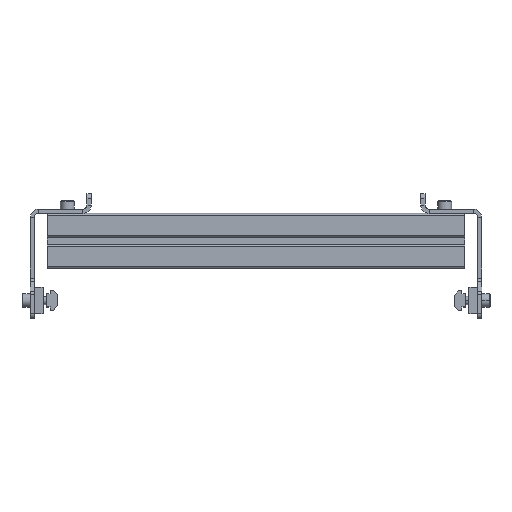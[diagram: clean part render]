
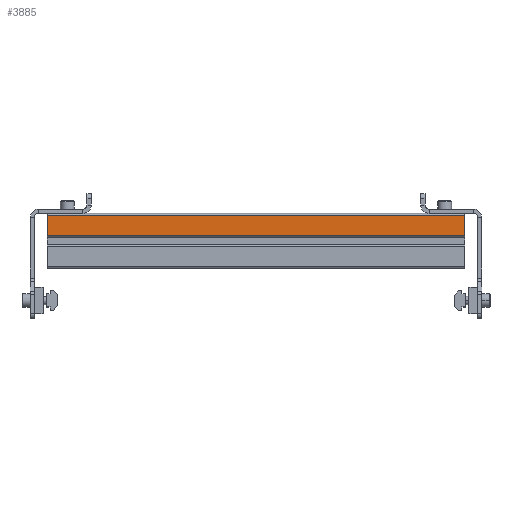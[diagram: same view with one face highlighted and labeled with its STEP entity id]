
A CAD part, top view. The second image highlights one B-rep face of the part: STEP entity #3885.
In plain terms, the highlighted planar face has unit normal (0, 0, 1) as drawn and (0, 1, 0) by its records, which use the part's own axes.
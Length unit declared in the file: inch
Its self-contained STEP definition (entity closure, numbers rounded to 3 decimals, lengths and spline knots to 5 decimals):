
#49 = ORIENTED_EDGE ( 'NONE', *, *, #855, .F. ) ;
#50 = CARTESIAN_POINT ( 'NONE',  ( -0.725, 0.441, 75. ) ) ;
#119 = EDGE_CURVE ( 'NONE', #6331, #7739, #5976, .T. ) ;
#364 = VECTOR ( 'NONE', #2160, 39.37008 ) ;
#490 = DIRECTION ( 'NONE',  ( 0., -1., 0. ) ) ;
#724 = CARTESIAN_POINT ( 'NONE',  ( -0.14758, 0.441, 5.98 ) ) ;
#855 = EDGE_CURVE ( 'NONE', #7739, #3124, #5385, .T. ) ;
#1076 = EDGE_CURVE ( 'NONE', #4794, #3124, #7832, .T. ) ;
#1087 = LINE ( 'NONE', #3711, #2051 ) ;
#1250 = DIRECTION ( 'NONE',  ( 0., 0., -1. ) ) ;
#1286 = FACE_OUTER_BOUND ( 'NONE', #3262, .T. ) ;
#1364 = ORIENTED_EDGE ( 'NONE', *, *, #1076, .T. ) ;
#2051 = VECTOR ( 'NONE', #2999, 39.37008 ) ;
#2160 = DIRECTION ( 'NONE',  ( -1., 0., 0. ) ) ;
#2999 = DIRECTION ( 'NONE',  ( 1., 0., 0. ) ) ;
#3124 = VERTEX_POINT ( 'NONE', #7377 ) ;
#3262 = EDGE_LOOP ( 'NONE', ( #6743, #4837, #1364, #49 ) ) ;
#3430 = DIRECTION ( 'NONE',  ( 0., 0., 1. ) ) ;
#3711 = CARTESIAN_POINT ( 'NONE',  ( 0.7875, 0.441, -5.98 ) ) ;
#3885 = ADVANCED_FACE ( 'NONE', ( #1286 ), #4835, .F. ) ;
#4422 = CARTESIAN_POINT ( 'NONE',  ( -0.7875, 0.441, 75. ) ) ;
#4427 = VECTOR ( 'NONE', #3430, 39.37008 ) ;
#4435 = CARTESIAN_POINT ( 'NONE',  ( -0.725, 0.441, -5.98 ) ) ;
#4794 = VERTEX_POINT ( 'NONE', #4435 ) ;
#4835 = PLANE ( 'NONE',  #7733 ) ;
#4837 = ORIENTED_EDGE ( 'NONE', *, *, #7972, .F. ) ;
#5385 = LINE ( 'NONE', #7964, #364 ) ;
#5389 = CARTESIAN_POINT ( 'NONE',  ( -0.14758, 0.441, -75. ) ) ;
#5784 = VECTOR ( 'NONE', #7035, 39.37008 ) ;
#5976 = LINE ( 'NONE', #5389, #4427 ) ;
#6331 = VERTEX_POINT ( 'NONE', #7303 ) ;
#6743 = ORIENTED_EDGE ( 'NONE', *, *, #119, .F. ) ;
#7035 = DIRECTION ( 'NONE',  ( 0., 0., 1. ) ) ;
#7303 = CARTESIAN_POINT ( 'NONE',  ( -0.14758, 0.441, -5.98 ) ) ;
#7377 = CARTESIAN_POINT ( 'NONE',  ( -0.725, 0.441, 5.98 ) ) ;
#7733 = AXIS2_PLACEMENT_3D ( 'NONE', #4422, #490, #1250 ) ;
#7739 = VERTEX_POINT ( 'NONE', #724 ) ;
#7832 = LINE ( 'NONE', #50, #5784 ) ;
#7964 = CARTESIAN_POINT ( 'NONE',  ( 0.7875, 0.441, 5.98 ) ) ;
#7972 = EDGE_CURVE ( 'NONE', #4794, #6331, #1087, .T. ) ;
